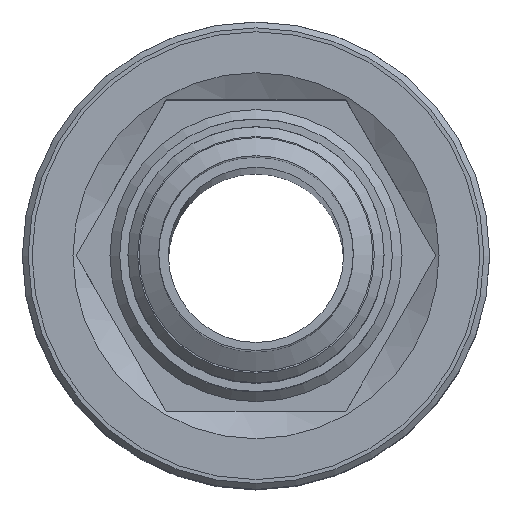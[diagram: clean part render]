
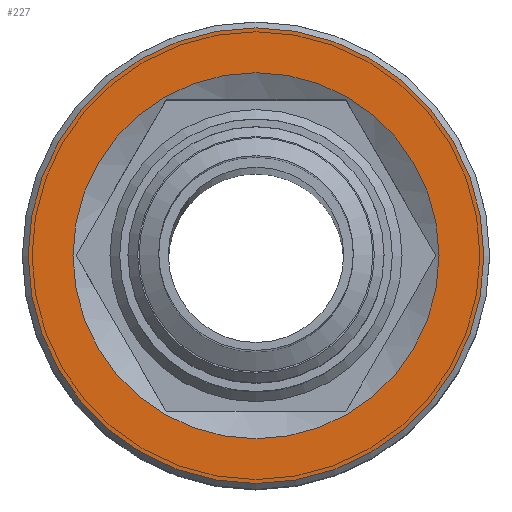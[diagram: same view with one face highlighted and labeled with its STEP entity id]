
A CAD part, top view. The second image highlights one B-rep face of the part: STEP entity #227.
In plain terms, the highlighted planar face has unit normal (0, 0, 1).
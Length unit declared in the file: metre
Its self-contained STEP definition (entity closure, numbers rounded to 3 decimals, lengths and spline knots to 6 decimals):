
#227=ADVANCED_FACE('',(#525,#526),#527,.F.);
#243=EDGE_CURVE('',#550,#550,#551,.T.);
#293=EDGE_CURVE('',#621,#621,#622,.T.);
#525=FACE_BOUND('',#921,.T.);
#526=FACE_OUTER_BOUND('',#922,.T.);
#527=PLANE('',#923);
#550=VERTEX_POINT('',#1037);
#551=CIRCLE('',#1038,0.0094);
#621=VERTEX_POINT('',#1142);
#622=CIRCLE('',#1143,0.0117);
#921=EDGE_LOOP('',(#1511));
#922=EDGE_LOOP('',(#1512));
#923=AXIS2_PLACEMENT_3D('',#1513,#1514,#1515);
#1037=CARTESIAN_POINT('',(0.0094,0.0,-0.001));
#1038=AXIS2_PLACEMENT_3D('',#1524,#1525,#1526);
#1142=CARTESIAN_POINT('',(0.0,0.0117,-0.001));
#1143=AXIS2_PLACEMENT_3D('',#1581,#1582,#1583);
#1511=ORIENTED_EDGE('',*,*,#243,.F.);
#1512=ORIENTED_EDGE('',*,*,#293,.T.);
#1513=CARTESIAN_POINT('',(-0.00255,0.,-0.001));
#1514=DIRECTION('',(0.0,0.,-1.0));
#1515=DIRECTION('',(0.0,-1.0,0.));
#1524=CARTESIAN_POINT('',(0.0,0.0,-0.001));
#1525=DIRECTION('',(0.0,0.0,1.0));
#1526=DIRECTION('',(1.0,0.0,0.0));
#1581=CARTESIAN_POINT('',(0.0,0.0,-0.001));
#1582=DIRECTION('',(0.0,0.,1.0));
#1583=DIRECTION('',(0.0,1.0,0.));
